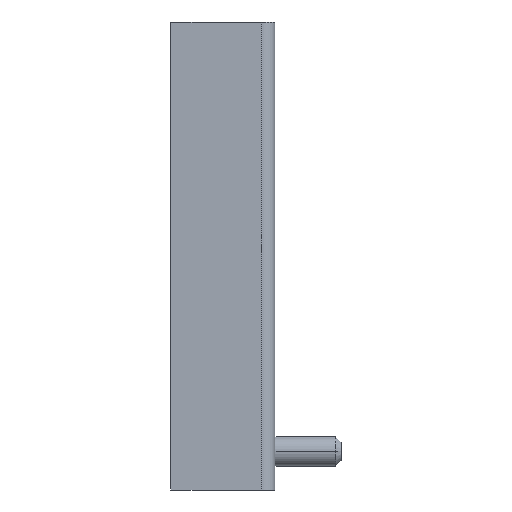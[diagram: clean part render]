
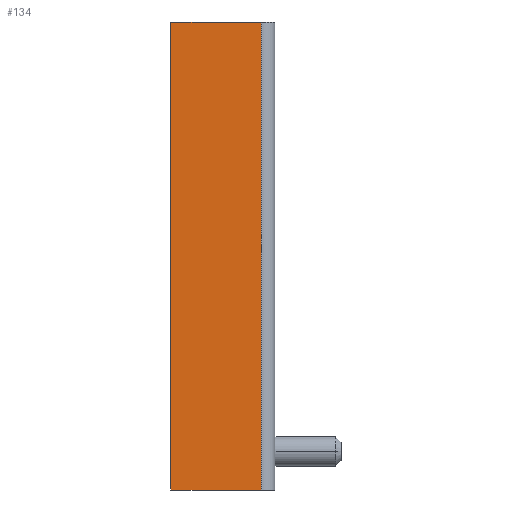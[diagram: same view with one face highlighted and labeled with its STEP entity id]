
A CAD part, left-side view. The second image highlights one B-rep face of the part: STEP entity #134.
In plain terms, the highlighted planar face has unit normal (-1, 0, 0).
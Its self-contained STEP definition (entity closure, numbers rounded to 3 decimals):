
#117 = VERTEX_POINT ( 'NONE', #878 ) ;
#122 = EDGE_CURVE ( 'NONE', #167, #168, #725, .T. ) ;
#123 = ORIENTED_EDGE ( 'NONE', *, *, #213, .T. ) ;
#124 = ORIENTED_EDGE ( 'NONE', *, *, #125, .T. ) ;
#125 = EDGE_CURVE ( 'NONE', #167, #117, #873, .T. ) ;
#134 = ADVANCED_FACE ( 'NONE', ( #983 ), #957, .T. ) ;
#138 = VERTEX_POINT ( 'NONE', #1023 ) ;
#147 = EDGE_LOOP ( 'NONE', ( #156, #176, #124, #123 ) ) ;
#156 = ORIENTED_EDGE ( 'NONE', *, *, #170, .F. ) ;
#167 = VERTEX_POINT ( 'NONE', #1221 ) ;
#168 = VERTEX_POINT ( 'NONE', #1117 ) ;
#170 = EDGE_CURVE ( 'NONE', #168, #138, #1228, .T. ) ;
#176 = ORIENTED_EDGE ( 'NONE', *, *, #122, .F. ) ;
#213 = EDGE_CURVE ( 'NONE', #117, #138, #1214, .T. ) ;
#715 = VECTOR ( 'NONE', #886, 1000. ) ;
#721 = DIRECTION ( 'NONE',  ( 0., 0., -1. ) ) ;
#722 = VECTOR ( 'NONE', #721, 1000. ) ;
#723 = CARTESIAN_POINT ( 'NONE',  ( -2., 0.5, 85. ) ) ;
#725 = LINE ( 'NONE', #723, #722 ) ;
#873 = LINE ( 'NONE', #887, #715 ) ;
#878 = CARTESIAN_POINT ( 'NONE',  ( -2., 16.9, 85. ) ) ;
#886 = DIRECTION ( 'NONE',  ( 0., 1., 0. ) ) ;
#887 = CARTESIAN_POINT ( 'NONE',  ( -2., 0., 85. ) ) ;
#957 = PLANE ( 'NONE',  #973 ) ;
#967 = DIRECTION ( 'NONE',  ( 0., 0., 1. ) ) ;
#968 = DIRECTION ( 'NONE',  ( -1., 0., 0. ) ) ;
#969 = CARTESIAN_POINT ( 'NONE',  ( -2., 0., 85. ) ) ;
#973 = AXIS2_PLACEMENT_3D ( 'NONE', #969, #968, #967 ) ;
#983 = FACE_OUTER_BOUND ( 'NONE', #147, .T. ) ;
#1023 = CARTESIAN_POINT ( 'NONE',  ( -2., 16.9, 0. ) ) ;
#1117 = CARTESIAN_POINT ( 'NONE',  ( -2., 0.5, 0. ) ) ;
#1182 = DIRECTION ( 'NONE',  ( 0., 1., 0. ) ) ;
#1196 = CARTESIAN_POINT ( 'NONE',  ( -2., 0., 0. ) ) ;
#1210 = DIRECTION ( 'NONE',  ( 0., 0., -1. ) ) ;
#1211 = VECTOR ( 'NONE', #1210, 1000. ) ;
#1214 = LINE ( 'NONE', #1215, #1211 ) ;
#1215 = CARTESIAN_POINT ( 'NONE',  ( -2., 16.9, 85. ) ) ;
#1221 = CARTESIAN_POINT ( 'NONE',  ( -2., 0.5, 85. ) ) ;
#1228 = LINE ( 'NONE', #1196, #1251 ) ;
#1251 = VECTOR ( 'NONE', #1182, 1000. ) ;
